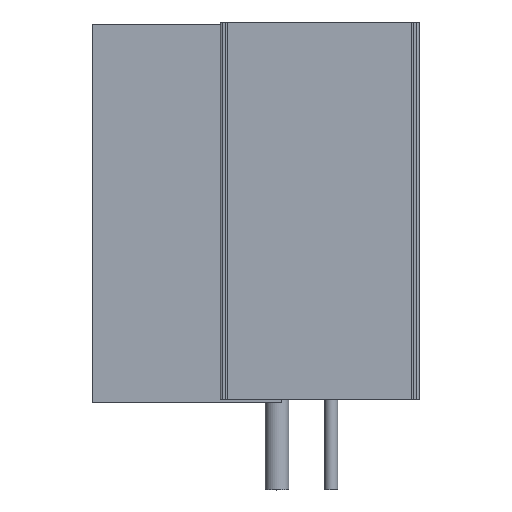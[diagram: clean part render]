
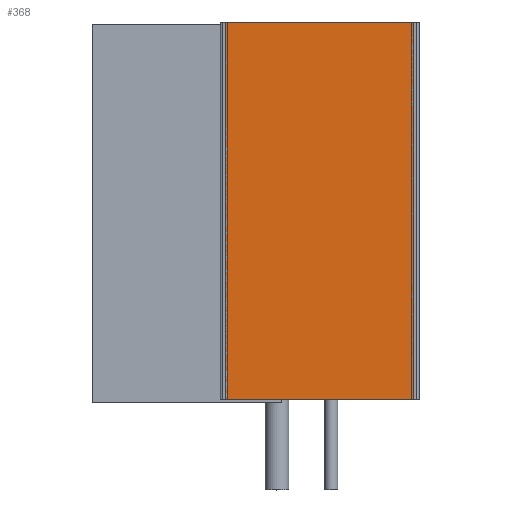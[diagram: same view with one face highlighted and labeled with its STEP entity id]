
A CAD part, top view. The second image highlights one B-rep face of the part: STEP entity #368.
In plain terms, the highlighted planar face has unit normal (0, 0, 1).
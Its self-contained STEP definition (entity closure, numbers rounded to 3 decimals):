
#368 = ADVANCED_FACE( '', ( #697 ), #698, .T. );
#697 = FACE_OUTER_BOUND( '', #1303, .T. );
#698 = PLANE( '', #1304 );
#1303 = EDGE_LOOP( '', ( #2136, #2137, #2138, #2139 ) );
#1304 = AXIS2_PLACEMENT_3D( '', #2140, #2141, #2142 );
#2136 = ORIENTED_EDGE( '', *, *, #4355, .F. );
#2137 = ORIENTED_EDGE( '', *, *, #4368, .F. );
#2138 = ORIENTED_EDGE( '', *, *, #4366, .T. );
#2139 = ORIENTED_EDGE( '', *, *, #4362, .T. );
#2140 = CARTESIAN_POINT( '', ( 36.5, 145.98, 27. ) );
#2141 = DIRECTION( '', ( 0., 0., 1. ) );
#2142 = DIRECTION( '', ( 1., 0., 0. ) );
#4355 = EDGE_CURVE( '', #5208, #5210, #5211, .T. );
#4362 = EDGE_CURVE( '', #5221, #5210, #5222, .T. );
#4366 = EDGE_CURVE( '', #5227, #5221, #5228, .T. );
#4368 = EDGE_CURVE( '', #5227, #5208, #5230, .T. );
#5208 = VERTEX_POINT( '', #6617 );
#5210 = VERTEX_POINT( '', #6620 );
#5211 = LINE( '', #6621, #6622 );
#5221 = VERTEX_POINT( '', #6638 );
#5222 = LINE( '', #6639, #6640 );
#5227 = VERTEX_POINT( '', #6648 );
#5228 = LINE( '', #6649, #6650 );
#5230 = LINE( '', #6653, #6654 );
#6617 = CARTESIAN_POINT( '', ( 36.5, 0., 27. ) );
#6620 = CARTESIAN_POINT( '', ( -36.5, 0., 27. ) );
#6621 = CARTESIAN_POINT( '', ( 36.5, 0., 27. ) );
#6622 = VECTOR( '', #8467, 1000. );
#6638 = CARTESIAN_POINT( '', ( -36.5, 145.98, 27. ) );
#6639 = CARTESIAN_POINT( '', ( -36.5, 145.98, 27. ) );
#6640 = VECTOR( '', #8474, 1000. );
#6648 = CARTESIAN_POINT( '', ( 36.5, 145.98, 27. ) );
#6649 = CARTESIAN_POINT( '', ( 36.5, 145.98, 27. ) );
#6650 = VECTOR( '', #8478, 1000. );
#6653 = CARTESIAN_POINT( '', ( 36.5, 145.98, 27. ) );
#6654 = VECTOR( '', #8480, 1000. );
#8467 = DIRECTION( '', ( -1., 0., 0. ) );
#8474 = DIRECTION( '', ( 0., -1., 0. ) );
#8478 = DIRECTION( '', ( -1., 0., 0. ) );
#8480 = DIRECTION( '', ( 0., -1., 0. ) );
